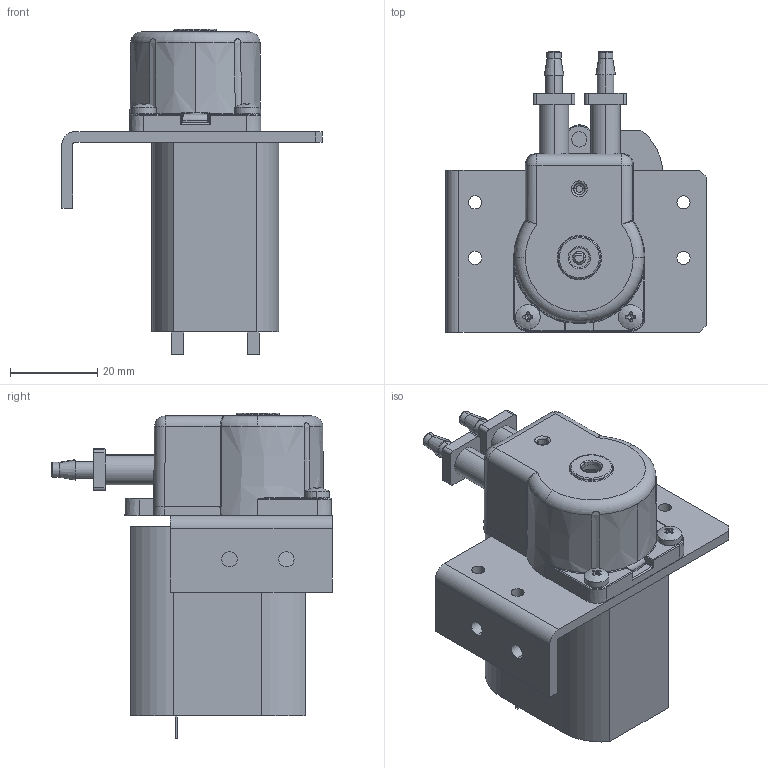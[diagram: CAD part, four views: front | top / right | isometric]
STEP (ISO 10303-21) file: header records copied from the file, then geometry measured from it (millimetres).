
FILE_DESCRIPTION (( 'STEP AP203' ), '1' );
FILE_NAME ('100 series dc b motor.STEP', '2020-10-22T13:02:41', ( '' ), ( '' ), 'SwSTEP 2.0', 'SolidWorks 2017', '' );
FILE_SCHEMA (( 'CONFIG_CONTROL_DESIGN' ));
Length unit declared in the file: millimetre
Products named in the file (11): 2; 52384-2 120 series 1.6 tube grip_1; 52417-1 120 series assembly_1; 100 series dc b  motor; 1_61_065_423; 52384-2 120 series 0.8 tube grip_1; 52384-2 120 COVER_1; 1.6mm tube; screw_iso7045-m3x6-h; 52384-1 120 BASE_1; micro 4
Assembly tree (13 placements, depth 3):
  100 series dc b  motor
    52417-1 120 series assembly_1
      52384-2 120 COVER_1
      52384-1 120 BASE_1
      52384-2 120 series 1.6 tube grip_1
      52384-2 120 series 0.8 tube grip_1
    1_61_065_423
    screw_iso7045-m3x6-h  x2
    1.6mm tube  x2
    micro 4  x2
    2
Bounding box: 59.5 x 64.15 x 74.4 mm (x, y, z)
Volume: 66671.6 mm3; surface area: 27254.9 mm2
Topology: 12 solids, 12 shells, 802 faces, 2049 edges, 1291 vertices
Faces by surface type: cylinder 273, plane 258, torus 96, bspline 93, cone 70, sphere 12
Entity records: 27910 total; most frequent: CARTESIAN_POINT 10208, ORIENTED_EDGE 3622, DIRECTION 3248, EDGE_CURVE 1811, AXIS2_PLACEMENT_3D 1239, VERTEX_POINT 1147, EDGE_LOOP 778, LINE 770
